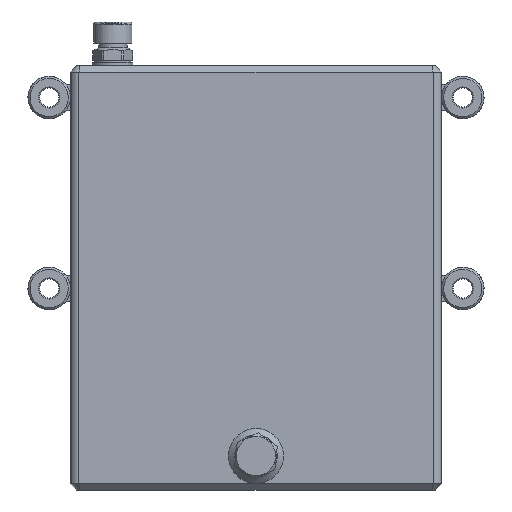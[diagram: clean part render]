
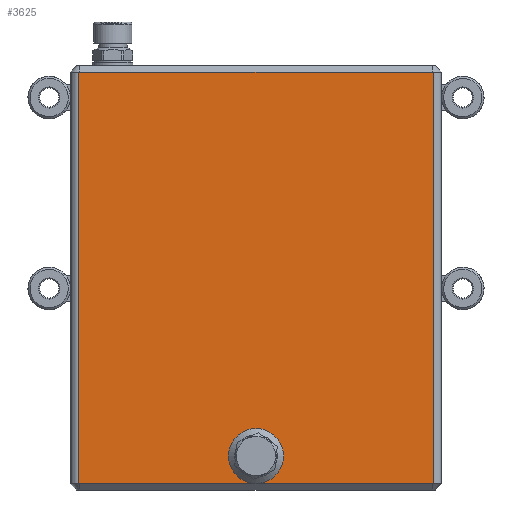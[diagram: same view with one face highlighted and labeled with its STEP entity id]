
A CAD part, front view. The second image highlights one B-rep face of the part: STEP entity #3625.
In plain terms, the highlighted planar face has unit normal (0, -1, 0).
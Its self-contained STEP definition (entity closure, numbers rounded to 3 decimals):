
#92=LINE('',#7694,#309);
#95=LINE('',#7702,#312);
#96=LINE('',#7706,#313);
#99=LINE('',#7716,#316);
#100=LINE('',#7721,#317);
#101=LINE('',#7722,#318);
#115=LINE('',#7786,#332);
#129=LINE('',#7812,#346);
#130=LINE('',#7814,#347);
#309=VECTOR('',#6540,1000.);
#312=VECTOR('',#6547,1000.);
#313=VECTOR('',#6552,1000.);
#316=VECTOR('',#6561,1000.);
#317=VECTOR('',#6568,1000.);
#318=VECTOR('',#6569,1000.);
#332=VECTOR('',#6653,1000.);
#346=VECTOR('',#6675,1000.);
#347=VECTOR('',#6678,1000.);
#1055=ORIENTED_EDGE('',*,*,#1733,.T.);
#1056=ORIENTED_EDGE('',*,*,#1731,.T.);
#1057=ORIENTED_EDGE('',*,*,#1732,.T.);
#1058=ORIENTED_EDGE('',*,*,#1730,.T.);
#1059=ORIENTED_EDGE('',*,*,#1725,.T.);
#1060=ORIENTED_EDGE('',*,*,#1776,.T.);
#1061=ORIENTED_EDGE('',*,*,#1777,.T.);
#1062=ORIENTED_EDGE('',*,*,#1761,.T.);
#1063=ORIENTED_EDGE('',*,*,#1723,.T.);
#1064=ORIENTED_EDGE('',*,*,#1719,.T.);
#1719=EDGE_CURVE('',#2147,#2115,#92,.T.);
#1723=EDGE_CURVE('',#2150,#2147,#95,.T.);
#1725=EDGE_CURVE('',#2151,#2152,#96,.T.);
#1730=EDGE_CURVE('',#2120,#2151,#99,.T.);
#1731=EDGE_CURVE('',#2155,#2155,#2443,.F.);
#1732=EDGE_CURVE('',#2155,#2120,#100,.T.);
#1733=EDGE_CURVE('',#2115,#2155,#101,.T.);
#1761=EDGE_CURVE('',#2170,#2150,#115,.T.);
#1776=EDGE_CURVE('',#2152,#2178,#129,.T.);
#1777=EDGE_CURVE('',#2178,#2170,#130,.T.);
#2115=VERTEX_POINT('',#7589);
#2120=VERTEX_POINT('',#7599);
#2147=VERTEX_POINT('',#7695);
#2150=VERTEX_POINT('',#7703);
#2151=VERTEX_POINT('',#7707);
#2152=VERTEX_POINT('',#7708);
#2155=VERTEX_POINT('',#7719);
#2170=VERTEX_POINT('',#7784);
#2178=VERTEX_POINT('',#7811);
#2443=CIRCLE('',#5751,13.);
#2793=EDGE_LOOP('',(#1055,#1056,#1057,#1058,#1059,#1060,#1061,#1062,#1063,
#1064));
#3191=FACE_BOUND('',#2793,.T.);
#3424=PLANE('',#5792);
#3625=ADVANCED_FACE('',(#3191),#3424,.T.);
#5751=AXIS2_PLACEMENT_3D('',#7718,#6564,#6565);
#5792=AXIS2_PLACEMENT_3D('',#7813,#6676,#6677);
#6540=DIRECTION('',(1.,0.,0.));
#6547=DIRECTION('',(0.,0.,-1.));
#6552=DIRECTION('',(0.,0.,1.));
#6561=DIRECTION('',(1.,0.,0.));
#6564=DIRECTION('',(0.,-1.,0.));
#6565=DIRECTION('',(1.,0.,0.));
#6568=DIRECTION('',(1.,0.,0.));
#6569=DIRECTION('',(1.,0.,0.));
#6653=DIRECTION('',(-1.,0.,0.));
#6675=DIRECTION('',(-1.,0.,0.));
#6676=DIRECTION('',(0.,-1.,0.));
#6677=DIRECTION('',(1.,0.,0.));
#6678=DIRECTION('',(-1.,0.,0.));
#7589=CARTESIAN_POINT('',(-83.,-87.5,3.));
#7599=CARTESIAN_POINT('',(83.,-87.5,3.));
#7694=CARTESIAN_POINT('',(-85.063,-87.5,3.));
#7695=CARTESIAN_POINT('',(-83.5,-87.5,3.));
#7702=CARTESIAN_POINT('',(-83.5,-87.5,197.));
#7703=CARTESIAN_POINT('',(-83.5,-87.5,197.));
#7706=CARTESIAN_POINT('',(83.5,-87.5,3.));
#7707=CARTESIAN_POINT('',(83.5,-87.5,3.));
#7708=CARTESIAN_POINT('',(83.5,-87.5,197.));
#7716=CARTESIAN_POINT('',(-85.063,-87.5,3.));
#7718=CARTESIAN_POINT('',(0.,-87.5,16.));
#7719=CARTESIAN_POINT('',(0.,-87.5,3.));
#7721=CARTESIAN_POINT('',(-85.063,-87.5,3.));
#7722=CARTESIAN_POINT('',(-85.063,-87.5,3.));
#7784=CARTESIAN_POINT('',(-83.,-87.5,197.));
#7786=CARTESIAN_POINT('',(-85.063,-87.5,197.));
#7811=CARTESIAN_POINT('',(83.,-87.5,197.));
#7812=CARTESIAN_POINT('',(-85.063,-87.5,197.));
#7813=CARTESIAN_POINT('',(-84.5,-87.5,100.));
#7814=CARTESIAN_POINT('',(-85.063,-87.5,197.));
